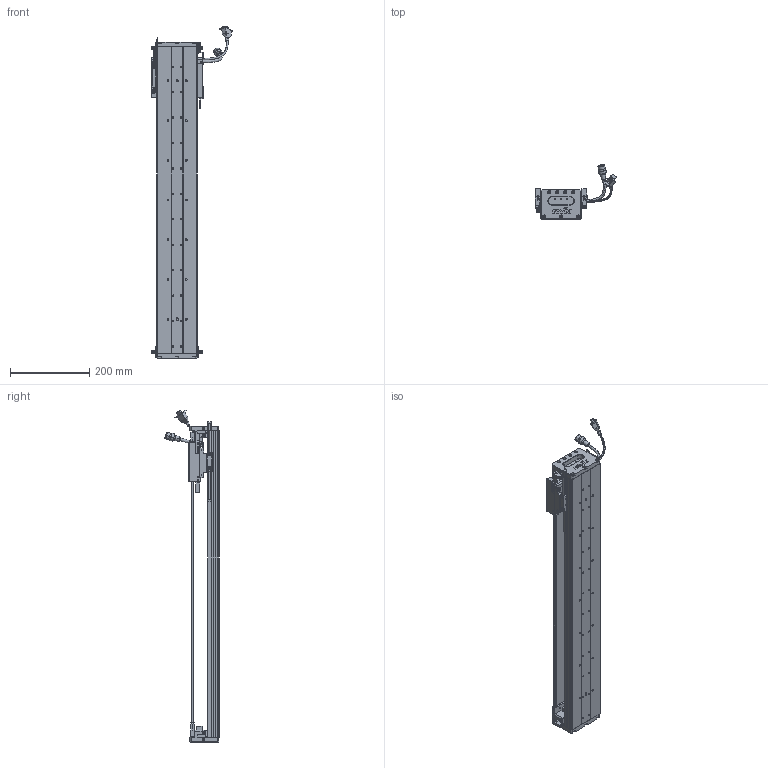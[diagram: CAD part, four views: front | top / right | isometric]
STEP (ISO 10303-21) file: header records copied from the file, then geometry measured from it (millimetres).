
FILE_DESCRIPTION (( 'STEP AP203' ), '1' );
FILE_NAME ('Z1-RY100D-1-L500-B-K.SLDASM_0600.step', '2021-05-17T01:40:25', ( '盈信电脑' ), ( '东莞市道滘镇水果街19号' ), 'SwSTEP 2.0', 'SolidWorks 2016', '' );
FILE_SCHEMA (( 'CONFIG_CONTROL_DESIGN' ));
Length unit declared in the file: millimetre
Products named in the file (36): PBU_SHEET; COVER-Part-1; Z1-RY100D-500-倰第菁釱_0600; Z-RY100D覜茼んえ; Z-100詩湍傷裔啣; HARNESS-Part-1; SHIELDPLATE; SCALE-Part-2; PSLH080_PSLF2; LABEL-Part-1; SEAL; HARNESS; SCREW-M1.6-3; SCALE-Part-1; COVER; SCALE; SCREW-M1.7; Z1-RY100铝滑块（21款）; SCREW-M1.7-1; 140雄赽晤鎢ん堤盄; SCREW-M1.6-1; SCREW-M1.6-2; 080黍杅芛假蚾釱21遴; HARNESS-Part-2; 100-Z-臏賑輸盄裔(21遴); SEAL-Part-1; Z1-RY100D-1-L500-B-K.SLDASM_0600; HOLDER0; 覜茼ん672; Z-RY100D詩湍狟揤裔; 榋妏寠巭燃_暯_M2_2; Z1-RY100-L500詩湍90mm遵_0600; Z-RY100D詩湍奻揤裔; SCREW-M1.6; LABEL; 140蚥薯蝶輸
Assembly tree (44 placements, depth 4):
  Z1-RY100D-1-L500-B-K.SLDASM_0600
    Z1-RY100D-500-倰第菁釱_0600
    Z1-RY100铝滑块（21款）
    PSLH080_PSLF2
      SCALE
        SCALE-Part-1
        SCALE-Part-2
      HARNESS
        HARNESS-Part-1
        HARNESS-Part-2
      LABEL
        LABEL-Part-1
      COVER
        COVER-Part-1
      SEAL
        SEAL-Part-1
      榋妏寠巭燃_暯_M2_2
      SHIELDPLATE
      SCREW-M1.7
      SCREW-M1.7-1
      PBU_SHEET
      SCREW-M1.6
      SCREW-M1.6-1
      SCREW-M1.6-2
      SCREW-M1.6-3
      HOLDER0
    080黍杅芛假蚾釱21遴
    Z-100詩湍傷裔啣  x2
    140蚥薯蝶輸  x2
    覜茼ん672  x4
    Z-RY100D覜茼んえ  x3
    100-Z-臏賑輸盄裔(21遴)
    140雄赽晤鎢ん堤盄
    Z1-RY100-L500詩湍90mm遵_0600
    Z-RY100D詩湍狟揤裔  x2
    Z-RY100D詩湍奻揤裔  x2
Bounding box: 205.84 x 136.11 x 835.43 mm (x, y, z)
Volume: 1751431.6 mm3; surface area: 685056.4 mm2
Topology: 39 solids, 39 shells, 2506 faces, 6535 edges, 4140 vertices
Faces by surface type: plane 1160, cylinder 1014, cone 210, torus 69, bspline 53
Entity records: 64507 total; most frequent: CARTESIAN_POINT 13693, DIRECTION 10089, ORIENTED_EDGE 9502, EDGE_CURVE 4751, AXIS2_PLACEMENT_3D 3664, VERTEX_POINT 3048, VECTOR 2761, LINE 2761
